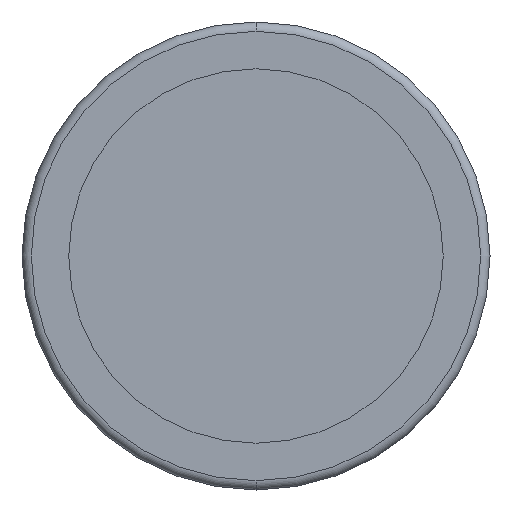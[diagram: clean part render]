
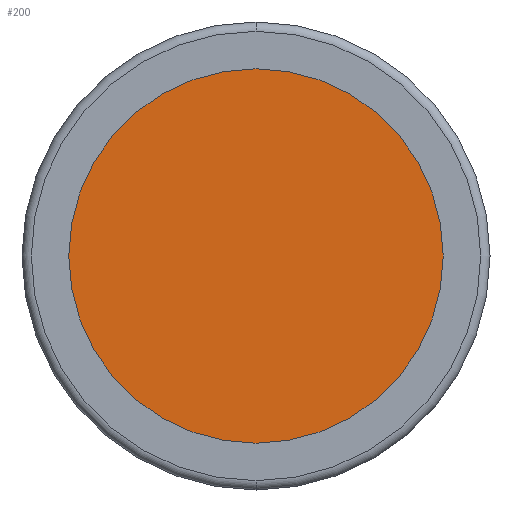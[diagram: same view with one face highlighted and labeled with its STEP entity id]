
A CAD part, front view. The second image highlights one B-rep face of the part: STEP entity #200.
In plain terms, the highlighted planar face has unit normal (0, -1, 0).
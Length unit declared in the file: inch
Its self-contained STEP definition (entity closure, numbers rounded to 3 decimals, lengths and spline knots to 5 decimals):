
#62 = EDGE_CURVE ( 'NONE', #202, #159, #655, .T. ) ;
#65 = EDGE_LOOP ( 'NONE', ( #1015, #972 ) ) ;
#70 = CARTESIAN_POINT ( 'NONE',  ( 0., -0.525, 0. ) ) ;
#77 = CARTESIAN_POINT ( 'NONE',  ( 0., -0.525, 0. ) ) ;
#95 = DIRECTION ( 'NONE',  ( 0., 0., -1. ) ) ;
#159 = VERTEX_POINT ( 'NONE', #1090 ) ;
#200 = ADVANCED_FACE ( 'NONE', ( #291 ), #896, .T. ) ;
#202 = VERTEX_POINT ( 'NONE', #827 ) ;
#230 = CARTESIAN_POINT ( 'NONE',  ( 0., -0.525, 0. ) ) ;
#291 = FACE_OUTER_BOUND ( 'NONE', #65, .T. ) ;
#358 = AXIS2_PLACEMENT_3D ( 'NONE', #77, #950, #95 ) ;
#437 = CIRCLE ( 'NONE', #358, 0.4 ) ;
#446 = DIRECTION ( 'NONE',  ( 0., 0., -1. ) ) ;
#511 = DIRECTION ( 'NONE',  ( 0., 0., -1. ) ) ;
#655 = CIRCLE ( 'NONE', #739, 0.4 ) ;
#715 = AXIS2_PLACEMENT_3D ( 'NONE', #70, #822, #446 ) ;
#739 = AXIS2_PLACEMENT_3D ( 'NONE', #230, #900, #511 ) ;
#822 = DIRECTION ( 'NONE',  ( 0., -1., 0. ) ) ;
#827 = CARTESIAN_POINT ( 'NONE',  ( 0., -0.525, -0.4 ) ) ;
#896 = PLANE ( 'NONE',  #715 ) ;
#900 = DIRECTION ( 'NONE',  ( 0., -1., 0. ) ) ;
#950 = DIRECTION ( 'NONE',  ( 0., -1., 0. ) ) ;
#972 = ORIENTED_EDGE ( 'NONE', *, *, #62, .T. ) ;
#1015 = ORIENTED_EDGE ( 'NONE', *, *, #1193, .T. ) ;
#1090 = CARTESIAN_POINT ( 'NONE',  ( 0., -0.525, 0.4 ) ) ;
#1193 = EDGE_CURVE ( 'NONE', #159, #202, #437, .T. ) ;
